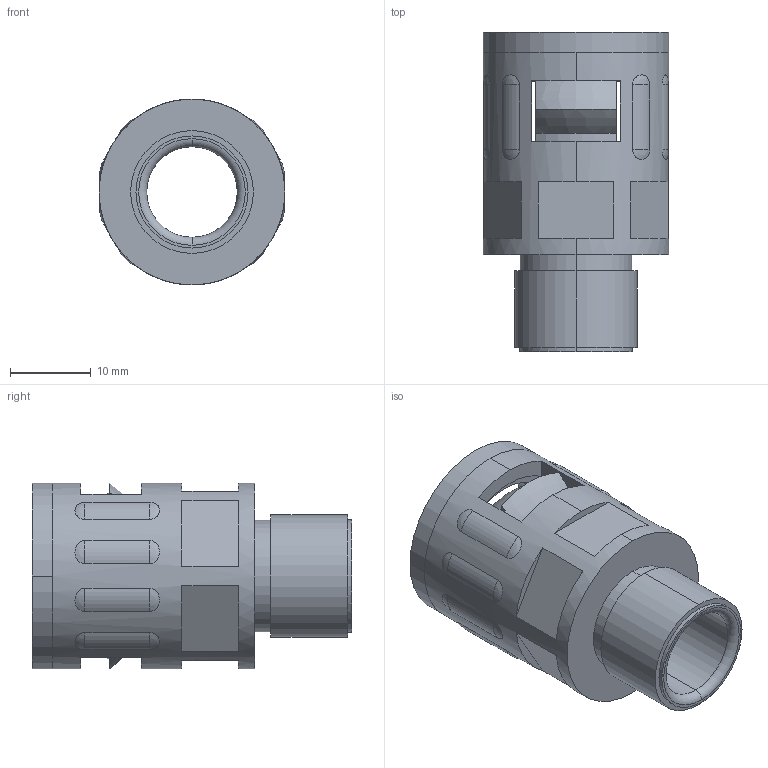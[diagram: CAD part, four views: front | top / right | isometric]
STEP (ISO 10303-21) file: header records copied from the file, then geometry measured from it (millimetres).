
FILE_DESCRIPTION (( 'STEP AP203' ), '1' );
FILE_NAME ('WQG-P09-AD15.8.STEP', '2020-03-12T02:39:51', ( '' ), ( '' ), 'SwSTEP 2.0', 'SolidWorks 2016', '' );
FILE_SCHEMA (( 'CONFIG_CONTROL_DESIGN' ));
Length unit declared in the file: millimetre
Products named in the file (4): GFD-AD15.8; WQG-P09-AD15.8; NSK-AD15.8
Assembly tree (3 placements, depth 2):
  WQG-P09-AD15.8
    WQG-P09-AD15.8
    GFD-AD15.8
    NSK-AD15.8
Bounding box: 23 x 39.5 x 23 mm (x, y, z)
Volume: 6160.5 mm3; surface area: 8358.7 mm2
Topology: 3 solids, 3 shells, 187 faces, 483 edges, 300 vertices
Faces by surface type: plane 72, cone 47, cylinder 32, torus 20, sphere 16
Entity records: 6319 total; most frequent: CARTESIAN_POINT 1416, DIRECTION 1005, ORIENTED_EDGE 902, EDGE_CURVE 451, AXIS2_PLACEMENT_3D 405, VERTEX_POINT 284, EDGE_LOOP 215, CIRCLE 212
